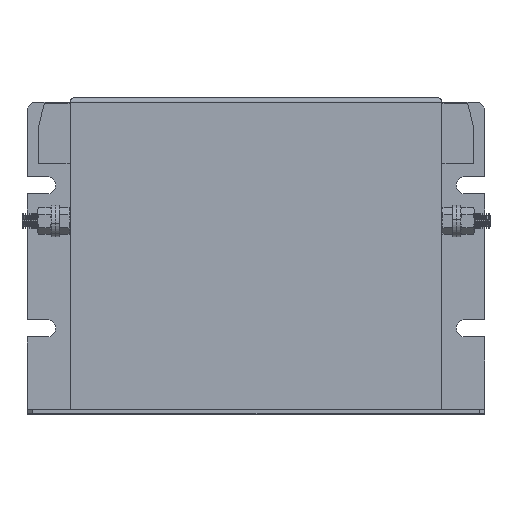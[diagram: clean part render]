
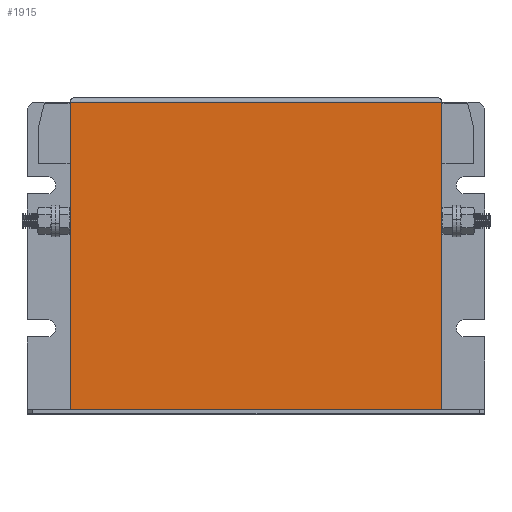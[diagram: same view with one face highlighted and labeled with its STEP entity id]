
A CAD part, top view. The second image highlights one B-rep face of the part: STEP entity #1915.
In plain terms, the highlighted planar face has unit normal (0, 0, 1).
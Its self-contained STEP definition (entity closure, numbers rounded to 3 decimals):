
#1915 = ADVANCED_FACE ( 'NONE', ( #6098 ), #6096, .F. ) ;
#1916 = EDGE_LOOP ( 'NONE', ( #1917, #1920, #1922, #1923 ) ) ;
#1917 = ORIENTED_EDGE ( 'NONE', *, *, #1918, .F. ) ;
#1918 = EDGE_CURVE ( 'NONE', #1919, #2455, #6097, .T. ) ;
#1919 = VERTEX_POINT ( 'NONE', #6088 ) ;
#1920 = ORIENTED_EDGE ( 'NONE', *, *, #1921, .T. ) ;
#1921 = EDGE_CURVE ( 'NONE', #1919, #1933, #6087, .T. ) ;
#1922 = ORIENTED_EDGE ( 'NONE', *, *, #1932, .T. ) ;
#1923 = ORIENTED_EDGE ( 'NONE', *, *, #2457, .T. ) ;
#1932 = EDGE_CURVE ( 'NONE', #1933, #2449, #6134, .T. ) ;
#1933 = VERTEX_POINT ( 'NONE', #6130 ) ;
#2449 = VERTEX_POINT ( 'NONE', #6966 ) ;
#2455 = VERTEX_POINT ( 'NONE', #6956 ) ;
#2457 = EDGE_CURVE ( 'NONE', #2449, #2455, #6955, .T. ) ;
#6084 = DIRECTION ( 'NONE',  ( -1., 0., 0. ) ) ;
#6085 = VECTOR ( 'NONE', #6084, 1000. ) ;
#6086 = CARTESIAN_POINT ( 'NONE',  ( 15., 109., 1.5 ) ) ;
#6087 = LINE ( 'NONE', #6086, #6085 ) ;
#6088 = CARTESIAN_POINT ( 'NONE',  ( 145., 109., 1.5 ) ) ;
#6089 = DIRECTION ( 'NONE',  ( 0., -1., 0. ) ) ;
#6090 = VECTOR ( 'NONE', #6089, 1000. ) ;
#6091 = CARTESIAN_POINT ( 'NONE',  ( 145., 110.5, 1.5 ) ) ;
#6092 = DIRECTION ( 'NONE',  ( -1., 0., 0. ) ) ;
#6093 = DIRECTION ( 'NONE',  ( 0., 0., -1. ) ) ;
#6094 = CARTESIAN_POINT ( 'NONE',  ( 15., 110.5, 1.5 ) ) ;
#6095 = AXIS2_PLACEMENT_3D ( 'NONE', #6094, #6093, #6092 ) ;
#6096 = PLANE ( 'NONE',  #6095 ) ;
#6097 = LINE ( 'NONE', #6091, #6090 ) ;
#6098 = FACE_OUTER_BOUND ( 'NONE', #1916, .T. ) ;
#6130 = CARTESIAN_POINT ( 'NONE',  ( 15., 109., 1.5 ) ) ;
#6131 = DIRECTION ( 'NONE',  ( 0., -1., 0. ) ) ;
#6132 = VECTOR ( 'NONE', #6131, 1000. ) ;
#6133 = CARTESIAN_POINT ( 'NONE',  ( 15., 110.5, 1.5 ) ) ;
#6134 = LINE ( 'NONE', #6133, #6132 ) ;
#6952 = DIRECTION ( 'NONE',  ( 1., 0., 0. ) ) ;
#6953 = VECTOR ( 'NONE', #6952, 1000. ) ;
#6954 = CARTESIAN_POINT ( 'NONE',  ( 15., 1.5, 1.5 ) ) ;
#6955 = LINE ( 'NONE', #6954, #6953 ) ;
#6956 = CARTESIAN_POINT ( 'NONE',  ( 145., 1.5, 1.5 ) ) ;
#6966 = CARTESIAN_POINT ( 'NONE',  ( 15., 1.5, 1.5 ) ) ;
